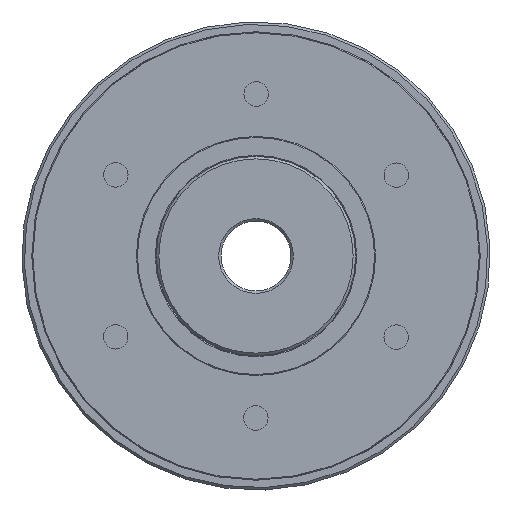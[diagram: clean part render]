
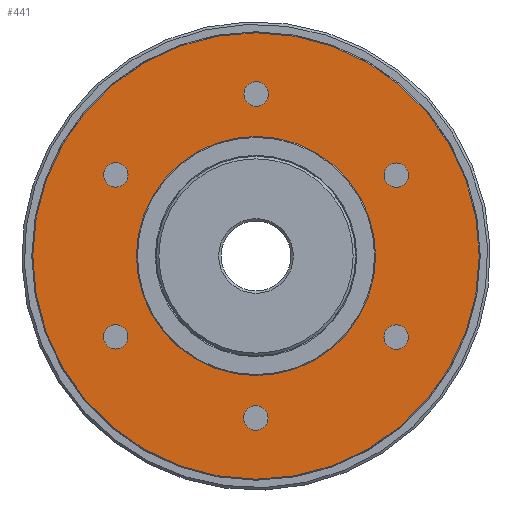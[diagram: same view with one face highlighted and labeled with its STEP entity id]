
A CAD part, left-side view. The second image highlights one B-rep face of the part: STEP entity #441.
In plain terms, the highlighted planar face has unit normal (-1, 0, 0).
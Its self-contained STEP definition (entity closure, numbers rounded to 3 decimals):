
#441 = ADVANCED_FACE( '', ( #910, #911, #912, #913, #914, #915, #916, #917 ), #918, .T. );
#910 = FACE_BOUND( '', #1484, .T. );
#911 = FACE_BOUND( '', #1485, .T. );
#912 = FACE_BOUND( '', #1486, .T. );
#913 = FACE_BOUND( '', #1487, .T. );
#914 = FACE_BOUND( '', #1488, .T. );
#915 = FACE_BOUND( '', #1489, .T. );
#916 = FACE_OUTER_BOUND( '', #1490, .T. );
#917 = FACE_BOUND( '', #1491, .T. );
#918 = PLANE( '', #1492 );
#1484 = EDGE_LOOP( '', ( #2162 ) );
#1485 = EDGE_LOOP( '', ( #2163 ) );
#1486 = EDGE_LOOP( '', ( #2164 ) );
#1487 = EDGE_LOOP( '', ( #2165 ) );
#1488 = EDGE_LOOP( '', ( #2166 ) );
#1489 = EDGE_LOOP( '', ( #2167 ) );
#1490 = EDGE_LOOP( '', ( #2168 ) );
#1491 = EDGE_LOOP( '', ( #2169 ) );
#1492 = AXIS2_PLACEMENT_3D( '', #2170, #2171, #2172 );
#2162 = ORIENTED_EDGE( '', *, *, #2931, .T. );
#2163 = ORIENTED_EDGE( '', *, *, #2932, .T. );
#2164 = ORIENTED_EDGE( '', *, *, #2885, .T. );
#2165 = ORIENTED_EDGE( '', *, *, #2823, .T. );
#2166 = ORIENTED_EDGE( '', *, *, #2933, .T. );
#2167 = ORIENTED_EDGE( '', *, *, #2840, .T. );
#2168 = ORIENTED_EDGE( '', *, *, #2826, .T. );
#2169 = ORIENTED_EDGE( '', *, *, #2934, .F. );
#2170 = CARTESIAN_POINT( '', ( 18.5, 0., 24. ) );
#2171 = DIRECTION( '', ( -1., 0., 0. ) );
#2172 = DIRECTION( '', ( 0., 0., 1. ) );
#2823 = EDGE_CURVE( '', #3204, #3204, #3205, .T. );
#2826 = EDGE_CURVE( '', #3209, #3209, #3210, .T. );
#2840 = EDGE_CURVE( '', #3233, #3233, #3234, .T. );
#2885 = EDGE_CURVE( '', #3307, #3307, #3308, .T. );
#2931 = EDGE_CURVE( '', #3378, #3378, #3379, .T. );
#2932 = EDGE_CURVE( '', #3380, #3380, #3381, .T. );
#2933 = EDGE_CURVE( '', #3382, #3382, #3383, .T. );
#2934 = EDGE_CURVE( '', #3384, #3384, #3385, .T. );
#3204 = VERTEX_POINT( '', #3848 );
#3205 = CIRCLE( '', #3849, 2.459 );
#3209 = VERTEX_POINT( '', #3853 );
#3210 = CIRCLE( '', #3854, 44.8 );
#3233 = VERTEX_POINT( '', #3881 );
#3234 = CIRCLE( '', #3882, 2.459 );
#3307 = VERTEX_POINT( '', #4026 );
#3308 = CIRCLE( '', #4027, 2.459 );
#3378 = VERTEX_POINT( '', #4207 );
#3379 = CIRCLE( '', #4208, 2.459 );
#3380 = VERTEX_POINT( '', #4209 );
#3381 = CIRCLE( '', #4210, 2.459 );
#3382 = VERTEX_POINT( '', #4211 );
#3383 = CIRCLE( '', #4212, 2.459 );
#3384 = VERTEX_POINT( '', #4213 );
#3385 = CIRCLE( '', #4214, 24. );
#3848 = CARTESIAN_POINT( '', ( 18.5, -30.275, -17.479 ) );
#3849 = AXIS2_PLACEMENT_3D( '', #4774, #4775, #4776 );
#3853 = CARTESIAN_POINT( '', ( 18.5, 0., 44.8 ) );
#3854 = AXIS2_PLACEMENT_3D( '', #4780, #4781, #4782 );
#3881 = CARTESIAN_POINT( '', ( 18.5, 0., 34.959 ) );
#3882 = AXIS2_PLACEMENT_3D( '', #4802, #4803, #4804 );
#4026 = CARTESIAN_POINT( '', ( 18.5, 0., -34.959 ) );
#4027 = AXIS2_PLACEMENT_3D( '', #4873, #4874, #4875 );
#4207 = CARTESIAN_POINT( '', ( 18.5, 30.275, 17.479 ) );
#4208 = AXIS2_PLACEMENT_3D( '', #4935, #4936, #4937 );
#4209 = CARTESIAN_POINT( '', ( 18.5, 30.275, -17.479 ) );
#4210 = AXIS2_PLACEMENT_3D( '', #4938, #4939, #4940 );
#4211 = CARTESIAN_POINT( '', ( 18.5, -30.275, 17.479 ) );
#4212 = AXIS2_PLACEMENT_3D( '', #4941, #4942, #4943 );
#4213 = CARTESIAN_POINT( '', ( 18.5, 0., 24. ) );
#4214 = AXIS2_PLACEMENT_3D( '', #4944, #4945, #4946 );
#4774 = CARTESIAN_POINT( '', ( 18.5, -28.146, -16.25 ) );
#4775 = DIRECTION( '', ( 1., 0., 0. ) );
#4776 = DIRECTION( '', ( 0., -0.866, -0.5 ) );
#4780 = CARTESIAN_POINT( '', ( 18.5, 0., 0. ) );
#4781 = DIRECTION( '', ( -1., 0., 0. ) );
#4782 = DIRECTION( '', ( 0., 0., 1. ) );
#4802 = CARTESIAN_POINT( '', ( 18.5, 0., 32.5 ) );
#4803 = DIRECTION( '', ( 1., 0., 0. ) );
#4804 = DIRECTION( '', ( 0., 0., 1. ) );
#4873 = CARTESIAN_POINT( '', ( 18.5, 0., -32.5 ) );
#4874 = DIRECTION( '', ( 1., 0., 0. ) );
#4875 = DIRECTION( '', ( 0., 0., -1. ) );
#4935 = CARTESIAN_POINT( '', ( 18.5, 28.146, 16.25 ) );
#4936 = DIRECTION( '', ( 1., 0., 0. ) );
#4937 = DIRECTION( '', ( 0., 0.866, 0.5 ) );
#4938 = CARTESIAN_POINT( '', ( 18.5, 28.146, -16.25 ) );
#4939 = DIRECTION( '', ( 1., 0., 0. ) );
#4940 = DIRECTION( '', ( 0., 0.866, -0.5 ) );
#4941 = CARTESIAN_POINT( '', ( 18.5, -28.146, 16.25 ) );
#4942 = DIRECTION( '', ( 1., 0., 0. ) );
#4943 = DIRECTION( '', ( 0., -0.866, 0.5 ) );
#4944 = CARTESIAN_POINT( '', ( 18.5, 0., 0. ) );
#4945 = DIRECTION( '', ( -1., 0., 0. ) );
#4946 = DIRECTION( '', ( 0., 0., 1. ) );
